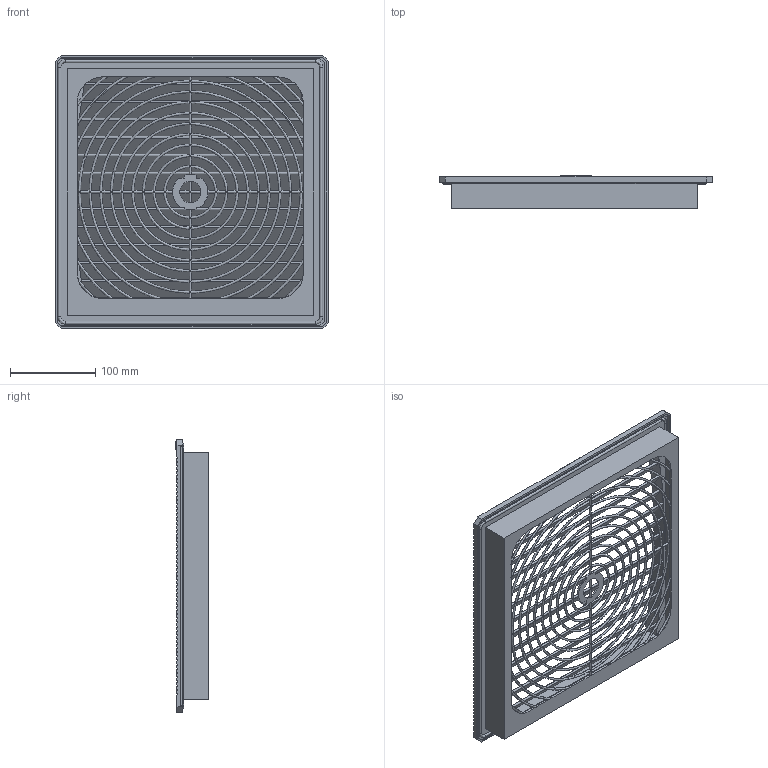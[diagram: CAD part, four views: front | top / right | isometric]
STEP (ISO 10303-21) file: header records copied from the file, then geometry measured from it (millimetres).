
FILE_DESCRIPTION (( 'STEP AP214' ), '1' );
FILE_NAME ('EFA500-700R5.STEP', '2017-05-16T11:26:46', ( '' ), ( '' ), 'SwSTEP 2.0', 'SolidWorks 2014', '' );
FILE_SCHEMA (( 'AUTOMOTIVE_DESIGN' ));
Length unit declared in the file: millimetre
Products named in the file (4): Eldon logo; cover EFA500-700R5_Standard; housing EFA500-700R5_Standard; EFA500-700R5
Assembly tree (3 placements, depth 2):
  EFA500-700R5
    housing EFA500-700R5_Standard
    cover EFA500-700R5_Standard
    Eldon logo
Bounding box: 320 x 38.2 x 320 mm (x, y, z)
Volume: 605168.5 mm3; surface area: 486051 mm2
Topology: 3 solids, 3 shells, 766 faces, 2299 edges, 1422 vertices
Faces by surface type: plane 387, cylinder 327, bspline 52
Full cylindrical faces by diameter (mm): 2.5 x43
Entity records: 39275 total; most frequent: CARTESIAN_POINT 18710, ORIENTED_EDGE 4416, DIRECTION 3378, EDGE_CURVE 2208, VERTEX_POINT 1422, AXIS2_PLACEMENT_3D 1164, VECTOR 1050, LINE 1050
